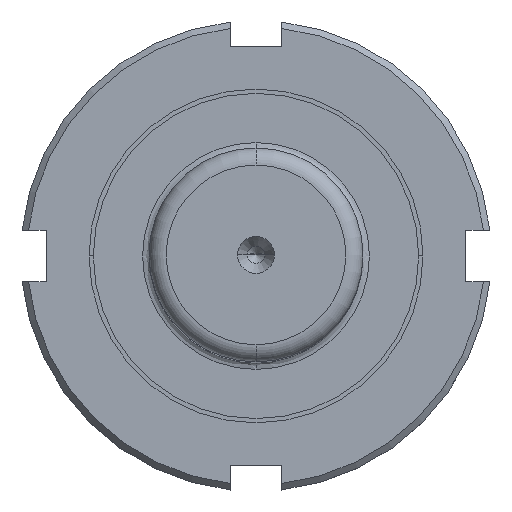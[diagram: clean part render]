
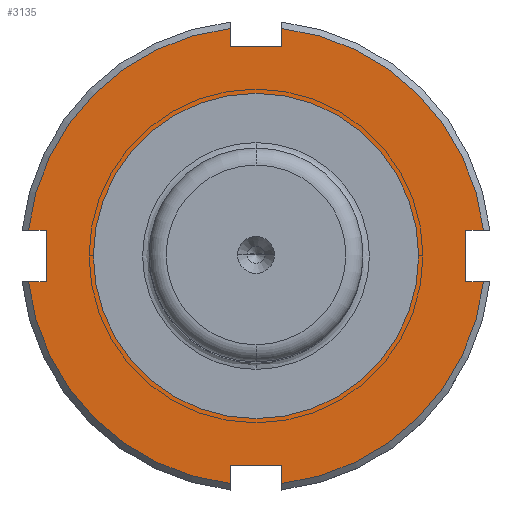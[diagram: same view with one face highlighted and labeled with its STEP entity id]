
A CAD part, top view. The second image highlights one B-rep face of the part: STEP entity #3135.
In plain terms, the highlighted planar face has unit normal (0, 0, 1).
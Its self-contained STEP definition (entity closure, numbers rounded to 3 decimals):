
#2227=CARTESIAN_POINT('',(0.0,19.0,38.0));
#2228=VERTEX_POINT('',#2227);
#2244=CARTESIAN_POINT('',(0.,-19.0,38.0));
#2245=VERTEX_POINT('',#2244);
#2252=CARTESIAN_POINT('',(0.0,0.0,38.0));
#2253=DIRECTION('',(0.0,0.0,-1.0));
#2254=DIRECTION('',(0.0,1.0,0.0));
#2255=AXIS2_PLACEMENT_3D('',#2252,#2253,#2254);
#2256=CIRCLE('',#2255,19.0);
#2257=EDGE_CURVE('',#2228,#2245,#2256,.T.);
#2292=CARTESIAN_POINT('',(-24.5,3.,38.));
#2293=VERTEX_POINT('',#2292);
#2300=CARTESIAN_POINT('',(-26.581,3.,38.));
#2301=VERTEX_POINT('',#2300);
#2302=CARTESIAN_POINT('',(-26.581,3.,38.));
#2303=DIRECTION('',(1.0,0.0,0.0));
#2304=VECTOR('',#2303,2.081);
#2305=LINE('',#2302,#2304);
#2306=EDGE_CURVE('',#2301,#2293,#2305,.T.);
#2362=CARTESIAN_POINT('',(-26.581,-3.,38.));
#2363=VERTEX_POINT('',#2362);
#2377=CARTESIAN_POINT('',(-24.5,-3.,38.));
#2378=VERTEX_POINT('',#2377);
#2379=CARTESIAN_POINT('',(-24.5,-3.,38.));
#2380=DIRECTION('',(-1.0,0.0,0.0));
#2381=VECTOR('',#2380,2.081);
#2382=LINE('',#2379,#2381);
#2383=EDGE_CURVE('',#2378,#2363,#2382,.T.);
#2414=CARTESIAN_POINT('',(-24.5,3.,38.));
#2415=DIRECTION('',(0.0,-1.0,0.0));
#2416=VECTOR('',#2415,6.0);
#2417=LINE('',#2414,#2416);
#2418=EDGE_CURVE('',#2293,#2378,#2417,.T.);
#2454=CARTESIAN_POINT('',(-3.,-24.5,38.0));
#2455=VERTEX_POINT('',#2454);
#2462=CARTESIAN_POINT('',(-3.,-26.581,38.0));
#2463=VERTEX_POINT('',#2462);
#2464=CARTESIAN_POINT('',(-3.,-26.581,38.0));
#2465=DIRECTION('',(0.0,1.0,0.0));
#2466=VECTOR('',#2465,2.081);
#2467=LINE('',#2464,#2466);
#2468=EDGE_CURVE('',#2463,#2455,#2467,.T.);
#2524=CARTESIAN_POINT('',(3.,-26.581,38.0));
#2525=VERTEX_POINT('',#2524);
#2539=CARTESIAN_POINT('',(3.,-24.5,38.0));
#2540=VERTEX_POINT('',#2539);
#2541=CARTESIAN_POINT('',(3.,-24.5,38.0));
#2542=DIRECTION('',(0.0,-1.0,0.0));
#2543=VECTOR('',#2542,2.081);
#2544=LINE('',#2541,#2543);
#2545=EDGE_CURVE('',#2540,#2525,#2544,.T.);
#2576=CARTESIAN_POINT('',(-3.,-24.5,38.0));
#2577=DIRECTION('',(1.0,0.0,0.0));
#2578=VECTOR('',#2577,6.0);
#2579=LINE('',#2576,#2578);
#2580=EDGE_CURVE('',#2455,#2540,#2579,.T.);
#2616=CARTESIAN_POINT('',(24.5,-3.,38.));
#2617=VERTEX_POINT('',#2616);
#2624=CARTESIAN_POINT('',(26.581,-3.,38.));
#2625=VERTEX_POINT('',#2624);
#2626=CARTESIAN_POINT('',(26.581,-3.,38.));
#2627=DIRECTION('',(-1.0,0.0,0.0));
#2628=VECTOR('',#2627,2.081);
#2629=LINE('',#2626,#2628);
#2630=EDGE_CURVE('',#2625,#2617,#2629,.T.);
#2686=CARTESIAN_POINT('',(26.581,3.,38.));
#2687=VERTEX_POINT('',#2686);
#2701=CARTESIAN_POINT('',(24.5,3.,38.));
#2702=VERTEX_POINT('',#2701);
#2703=CARTESIAN_POINT('',(24.5,3.,38.));
#2704=DIRECTION('',(1.0,0.0,0.0));
#2705=VECTOR('',#2704,2.081);
#2706=LINE('',#2703,#2705);
#2707=EDGE_CURVE('',#2702,#2687,#2706,.T.);
#2738=CARTESIAN_POINT('',(24.5,-3.,38.));
#2739=DIRECTION('',(0.0,1.0,0.0));
#2740=VECTOR('',#2739,6.0);
#2741=LINE('',#2738,#2740);
#2742=EDGE_CURVE('',#2617,#2702,#2741,.T.);
#2778=CARTESIAN_POINT('',(3.0,24.5,38.0));
#2779=VERTEX_POINT('',#2778);
#2786=CARTESIAN_POINT('',(3.0,26.581,38.0));
#2787=VERTEX_POINT('',#2786);
#2788=CARTESIAN_POINT('',(3.0,26.581,38.0));
#2789=DIRECTION('',(0.0,-1.0,0.0));
#2790=VECTOR('',#2789,2.081);
#2791=LINE('',#2788,#2790);
#2792=EDGE_CURVE('',#2787,#2779,#2791,.T.);
#2848=CARTESIAN_POINT('',(-3.0,26.581,38.0));
#2849=VERTEX_POINT('',#2848);
#2863=CARTESIAN_POINT('',(-3.0,24.5,38.0));
#2864=VERTEX_POINT('',#2863);
#2865=CARTESIAN_POINT('',(-3.0,24.5,38.0));
#2866=DIRECTION('',(0.0,1.0,0.0));
#2867=VECTOR('',#2866,2.081);
#2868=LINE('',#2865,#2867);
#2869=EDGE_CURVE('',#2864,#2849,#2868,.T.);
#2900=CARTESIAN_POINT('',(3.0,24.5,38.0));
#2901=DIRECTION('',(-1.0,0.0,0.0));
#2902=VECTOR('',#2901,6.0);
#2903=LINE('',#2900,#2902);
#2904=EDGE_CURVE('',#2779,#2864,#2903,.T.);
#3078=CARTESIAN_POINT('',(0.0,22.875,38.0));
#3079=DIRECTION('',(0.0,0.0,1.0));
#3080=DIRECTION('',(1.0,0.0,0.0));
#3081=AXIS2_PLACEMENT_3D('',#3078,#3079,#3080);
#3082=PLANE('',#3081);
#3083=ORIENTED_EDGE('',*,*,#2306,.T.);
#3084=ORIENTED_EDGE('',*,*,#2418,.T.);
#3085=ORIENTED_EDGE('',*,*,#2383,.T.);
#3086=CARTESIAN_POINT('',(0.0,0.0,38.0));
#3087=DIRECTION('',(0.0,0.0,-1.0));
#3088=DIRECTION('',(0.0,1.0,0.0));
#3089=AXIS2_PLACEMENT_3D('',#3086,#3087,#3088);
#3090=CIRCLE('',#3089,26.75);
#3091=EDGE_CURVE('',#2463,#2363,#3090,.T.);
#3092=ORIENTED_EDGE('',*,*,#3091,.F.);
#3093=ORIENTED_EDGE('',*,*,#2468,.T.);
#3094=ORIENTED_EDGE('',*,*,#2580,.T.);
#3095=ORIENTED_EDGE('',*,*,#2545,.T.);
#3096=CARTESIAN_POINT('',(0.0,0.0,38.0));
#3097=DIRECTION('',(0.0,0.0,-1.0));
#3098=DIRECTION('',(0.0,1.0,0.0));
#3099=AXIS2_PLACEMENT_3D('',#3096,#3097,#3098);
#3100=CIRCLE('',#3099,26.75);
#3101=EDGE_CURVE('',#2625,#2525,#3100,.T.);
#3102=ORIENTED_EDGE('',*,*,#3101,.F.);
#3103=ORIENTED_EDGE('',*,*,#2630,.T.);
#3104=ORIENTED_EDGE('',*,*,#2742,.T.);
#3105=ORIENTED_EDGE('',*,*,#2707,.T.);
#3106=CARTESIAN_POINT('',(0.0,0.0,38.0));
#3107=DIRECTION('',(0.0,0.0,-1.0));
#3108=DIRECTION('',(0.0,1.0,0.0));
#3109=AXIS2_PLACEMENT_3D('',#3106,#3107,#3108);
#3110=CIRCLE('',#3109,26.75);
#3111=EDGE_CURVE('',#2787,#2687,#3110,.T.);
#3112=ORIENTED_EDGE('',*,*,#3111,.F.);
#3113=ORIENTED_EDGE('',*,*,#2792,.T.);
#3114=ORIENTED_EDGE('',*,*,#2904,.T.);
#3115=ORIENTED_EDGE('',*,*,#2869,.T.);
#3116=CARTESIAN_POINT('',(0.0,0.0,38.0));
#3117=DIRECTION('',(0.0,0.0,-1.0));
#3118=DIRECTION('',(0.0,1.0,0.0));
#3119=AXIS2_PLACEMENT_3D('',#3116,#3117,#3118);
#3120=CIRCLE('',#3119,26.75);
#3121=EDGE_CURVE('',#2301,#2849,#3120,.T.);
#3122=ORIENTED_EDGE('',*,*,#3121,.F.);
#3123=EDGE_LOOP('',(#3083,#3084,#3085,#3092,#3093,#3094,#3095,#3102,#3103,#3104,#3105,#3112,#3113,#3114,#3115,#3122));
#3124=FACE_OUTER_BOUND('',#3123,.T.);
#3125=ORIENTED_EDGE('',*,*,#2257,.T.);
#3126=CARTESIAN_POINT('',(0.0,0.0,38.0));
#3127=DIRECTION('',(0.0,0.0,-1.0));
#3128=DIRECTION('',(0.0,1.0,0.0));
#3129=AXIS2_PLACEMENT_3D('',#3126,#3127,#3128);
#3130=CIRCLE('',#3129,19.0);
#3131=EDGE_CURVE('',#2245,#2228,#3130,.T.);
#3132=ORIENTED_EDGE('',*,*,#3131,.T.);
#3133=EDGE_LOOP('',(#3125,#3132));
#3134=FACE_BOUND('',#3133,.T.);
#3135=ADVANCED_FACE('',(#3124,#3134),#3082,.T.);
